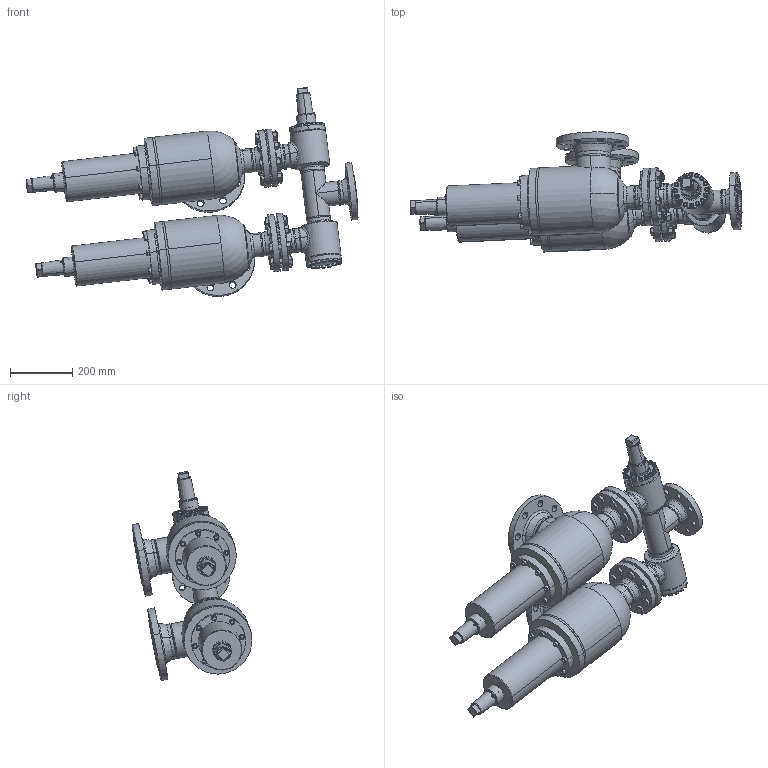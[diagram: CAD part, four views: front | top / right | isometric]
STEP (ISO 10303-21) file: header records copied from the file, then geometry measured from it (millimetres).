
FILE_DESCRIPTION (( 'STEP AP214' ), '1' );
FILE_NAME ('WVR-SVUB_168FL_DN65_DIN-FL_seitlich.STEP', '2010-09-10T05:27:47', ( 'Eckhard Grams' ), ( 'AWP Kälte Klima Armaturen GmbH' ), 'SwSTEP 2.0', 'SolidWorks 2002296', '' );
FILE_SCHEMA (( 'AUTOMOTIVE_DESIGN' ));
Length unit declared in the file: millimetre
Products named in the file (38): WVR-SVUB_168FL_DN65_DIN-FL_seitlich; SVUB44200C17-DN65-(100)_DIN-FL_Standard; Flach-Dichtring44331-20-65_DN 65; Geh,kpl 44331-17-DN65-(100)_DIN-FL-N_Standard; Flansch-DIN2635-Nut_PS40_DIN-Flansch-DN100_PS40-Nut; Geh,kpl 44331-17-DN65-(100)_R1_PS25_Standard; Sitzstutzen44331-17-DN65_kpl-im-geh_Standard; Geh44331-17-DN65_R1_DN65-100; Kopfstück44331-17-DN65_Standard; Rohrstutzen-A44331-17-DN65-(100)_R1_SVU; bead44331-17-Sitzst-Geh_Standard; bead44331-17-Gehkpl1_Standard; bead44331-17-Flana-E_Standard; bead44331-17-Flana-A_Standard; Loser-FL44200-17-DN65-SVU_PS25_Standard; Haube44331-17-DN65_kpl-lt-ZG_Standard; geteilter Ring4433-17-DN65_PS25_Standard; Zylinderschraube-DIN912_M10x 35; WVR24020D17-DN065_DIN-FL-N-F_PS40_Standard; WVB-R23000K17_Deck+Schr-DN65_Standard; Deckel23000K17-DN65_Standard; Geh,kpl23020E17-DN065_DIN-FL-N-F_PS40_Standard; Geh,kpl23000E17-DN065_R1_PS40_Standard; bead23000-17-2_Standard; bead23000-17-1_Standard; Gehäuse23000E17-DN065_R1_PS40_Standard; T-Stück DIN2615_DN 65; Flansch-DIN2635-Nut_PS40_DIN-Flansch-DN065_PS40-Nut; Flansch-DIN2635-Feder_PS40_DIN-Flansch-DN065_PS40-Feder; bead23020-17-2_Standard; bead23020-17-1_Standard; bead23020-17-3_Standard; Kappe 16402-15_DN40-65 (M52x3)_Standard; AVR26300K17_Deck+Schr-DN65_Standard; Deckel26300K17-DN65_Standard; Zylinderschraube-DIN912_M 8x  25; Sechskantschraube-DIN933_M16x 60; Sechskantmutter-DIN934_M16
Assembly tree (110 placements, depth 5):
  WVR-SVUB_168FL_DN65_DIN-FL_seitlich
    SVUB44200C17-DN65-(100)_DIN-FL_Standard  x2
      Zylinderschraube-DIN912_M10x 35
      Kappe 16402-15_DN40-65 (M52x3)_Standard
      Haube44331-17-DN65_kpl-lt-ZG_Standard
      geteilter Ring4433-17-DN65_PS25_Standard
      Flach-Dichtring44331-20-65_DN 65
      Geh,kpl 44331-17-DN65-(100)_DIN-FL-N_Standard
        bead44331-17-Flana-E_Standard
        Flansch-DIN2635-Nut_PS40_DIN-Flansch-DN100_PS40-Nut
        Flansch-DIN2635-Nut_PS40_DIN-Flansch-DN065_PS40-Nut
        Geh,kpl 44331-17-DN65-(100)_R1_PS25_Standard
          bead44331-17-Gehkpl1_Standard
          bead44331-17-Sitzst-Geh_Standard
          Geh44331-17-DN65_R1_DN65-100
          Sitzstutzen44331-17-DN65_kpl-im-geh_Standard
          Kopfstück44331-17-DN65_Standard
          Rohrstutzen-A44331-17-DN65-(100)_R1_SVU
        bead44331-17-Flana-A_Standard
      Loser-FL44200-17-DN65-SVU_PS25_Standard
    WVR24020D17-DN065_DIN-FL-N-F_PS40_Standard
      Kappe 16402-15_DN40-65 (M52x3)_Standard
      Geh,kpl23020E17-DN065_DIN-FL-N-F_PS40_Standard
        Flansch-DIN2635-Feder_PS40_DIN-Flansch-DN065_PS40-Feder  x2
        bead23020-17-2_Standard
        Geh,kpl23000E17-DN065_R1_PS40_Standard
          T-Stück DIN2615_DN 65
          Gehäuse23000E17-DN065_R1_PS40_Standard  x2
          bead23000-17-1_Standard
          bead23000-17-2_Standard
        Flansch-DIN2635-Nut_PS40_DIN-Flansch-DN065_PS40-Nut
        bead23020-17-3_Standard
        bead23020-17-1_Standard
      WVB-R23000K17_Deck+Schr-DN65_Standard
        Zylinderschraube-DIN912_M 8x  25  x16
        Deckel23000K17-DN65_Standard
      AVR26300K17_Deck+Schr-DN65_Standard
        Deckel26300K17-DN65_Standard
        Zylinderschraube-DIN912_M 8x  25  x16
    Sechskantschraube-DIN933_M16x 60  x16
    Sechskantmutter-DIN934_M16  x16
Bounding box: 1069.58 x 386.52 x 673.31 mm (x, y, z)
Volume: 12785657.2 mm3; surface area: 3042045.9 mm2
Topology: 126 solids, 126 shells, 2885 faces, 6551 edges, 4003 vertices
Faces by surface type: plane 953, cylinder 874, cone 783, torus 177, bspline 88, sphere 10
Entity records: 55651 total; most frequent: CARTESIAN_POINT 35369, DIRECTION 3954, ORIENTED_EDGE 3500, EDGE_CURVE 1750, AXIS2_PLACEMENT_3D 1690, VERTEX_POINT 1086, EDGE_LOOP 936, CIRCLE 880
